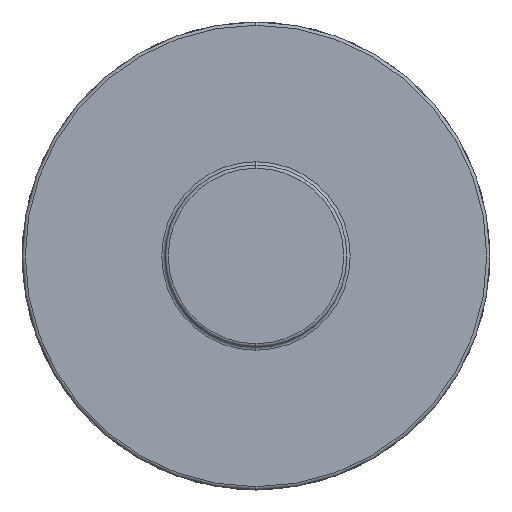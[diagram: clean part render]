
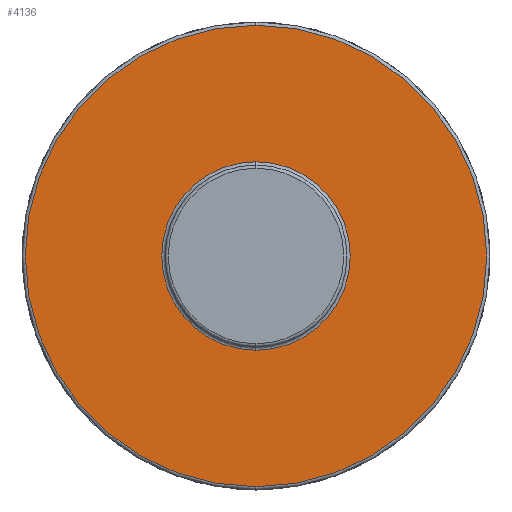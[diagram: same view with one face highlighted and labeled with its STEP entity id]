
A CAD part, left-side view. The second image highlights one B-rep face of the part: STEP entity #4136.
In plain terms, the highlighted planar face has unit normal (-1, 0, 0).
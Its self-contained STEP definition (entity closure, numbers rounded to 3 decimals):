
#24 = VERTEX_POINT ( 'NONE', #4451 ) ;
#270 = CIRCLE ( 'NONE', #2203, 35.5 ) ;
#509 = DIRECTION ( 'NONE',  ( 0., 0., -1. ) ) ;
#561 = DIRECTION ( 'NONE',  ( 1., 0., 0. ) ) ;
#565 = DIRECTION ( 'NONE',  ( 0., 0., -1. ) ) ;
#940 = CARTESIAN_POINT ( 'NONE',  ( 0., 0., 0. ) ) ;
#1343 = CARTESIAN_POINT ( 'NONE',  ( 0., 0., 0. ) ) ;
#1377 = CIRCLE ( 'NONE', #2933, 35.5 ) ;
#1416 = AXIS2_PLACEMENT_3D ( 'NONE', #1343, #2906, #4393 ) ;
#1556 = EDGE_LOOP ( 'NONE', ( #3376, #2199 ) ) ;
#1592 = AXIS2_PLACEMENT_3D ( 'NONE', #3562, #1656, #509 ) ;
#1647 = CARTESIAN_POINT ( 'NONE',  ( 0., 0., 14.5 ) ) ;
#1656 = DIRECTION ( 'NONE',  ( 1., 0., 0. ) ) ;
#1743 = CARTESIAN_POINT ( 'NONE',  ( 0., 0., 0. ) ) ;
#1773 = DIRECTION ( 'NONE',  ( -1., 0., 0. ) ) ;
#1896 = EDGE_CURVE ( 'NONE', #3296, #2308, #270, .T. ) ;
#2110 = EDGE_LOOP ( 'NONE', ( #3272, #2811 ) ) ;
#2147 = AXIS2_PLACEMENT_3D ( 'NONE', #3252, #561, #3539 ) ;
#2199 = ORIENTED_EDGE ( 'NONE', *, *, #3138, .T. ) ;
#2203 = AXIS2_PLACEMENT_3D ( 'NONE', #940, #4056, #565 ) ;
#2308 = VERTEX_POINT ( 'NONE', #3711 ) ;
#2543 = VERTEX_POINT ( 'NONE', #1647 ) ;
#2682 = CARTESIAN_POINT ( 'NONE',  ( 0., 0., -35.5 ) ) ;
#2811 = ORIENTED_EDGE ( 'NONE', *, *, #5010, .T. ) ;
#2906 = DIRECTION ( 'NONE',  ( 1., 0., 0. ) ) ;
#2933 = AXIS2_PLACEMENT_3D ( 'NONE', #1743, #1773, #4959 ) ;
#3138 = EDGE_CURVE ( 'NONE', #2308, #3296, #1377, .T. ) ;
#3252 = CARTESIAN_POINT ( 'NONE',  ( 0., 0., 0. ) ) ;
#3272 = ORIENTED_EDGE ( 'NONE', *, *, #3388, .T. ) ;
#3277 = FACE_BOUND ( 'NONE', #2110, .T. ) ;
#3296 = VERTEX_POINT ( 'NONE', #2682 ) ;
#3376 = ORIENTED_EDGE ( 'NONE', *, *, #1896, .T. ) ;
#3388 = EDGE_CURVE ( 'NONE', #24, #2543, #3809, .T. ) ;
#3539 = DIRECTION ( 'NONE',  ( 0., 0., -1. ) ) ;
#3562 = CARTESIAN_POINT ( 'NONE',  ( 0., 0., 0. ) ) ;
#3629 = CIRCLE ( 'NONE', #1416, 14.5 ) ;
#3711 = CARTESIAN_POINT ( 'NONE',  ( 0., 0., 35.5 ) ) ;
#3809 = CIRCLE ( 'NONE', #1592, 14.5 ) ;
#4053 = PLANE ( 'NONE',  #2147 ) ;
#4056 = DIRECTION ( 'NONE',  ( -1., 0., 0. ) ) ;
#4136 = ADVANCED_FACE ( 'NONE', ( #3277, #4488 ), #4053, .F. ) ;
#4393 = DIRECTION ( 'NONE',  ( 0., 0., -1. ) ) ;
#4451 = CARTESIAN_POINT ( 'NONE',  ( 0., 0., -14.5 ) ) ;
#4488 = FACE_OUTER_BOUND ( 'NONE', #1556, .T. ) ;
#4959 = DIRECTION ( 'NONE',  ( 0., 0., -1. ) ) ;
#5010 = EDGE_CURVE ( 'NONE', #2543, #24, #3629, .T. ) ;
